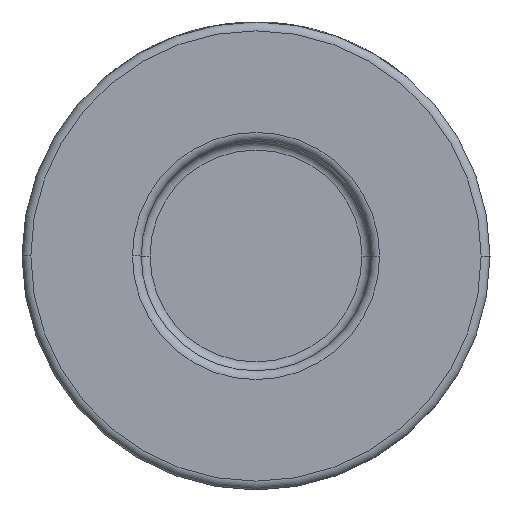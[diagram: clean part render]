
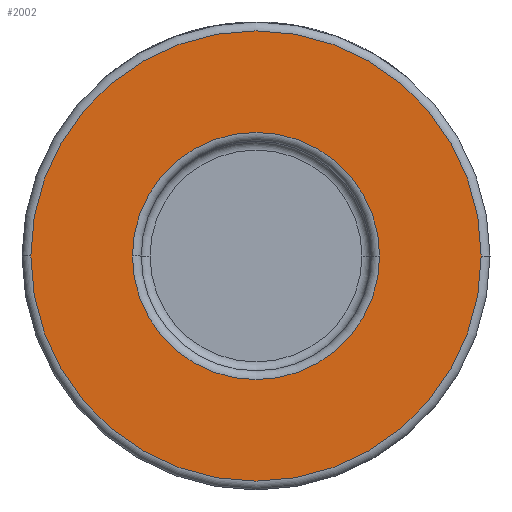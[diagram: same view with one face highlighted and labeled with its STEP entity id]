
A CAD part, front view. The second image highlights one B-rep face of the part: STEP entity #2002.
In plain terms, the highlighted planar face has unit normal (0, -1, 0).
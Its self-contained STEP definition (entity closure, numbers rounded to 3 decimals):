
#249 = AXIS2_PLACEMENT_3D ( 'NONE', #4017, #3641, #3024 ) ;
#378 = EDGE_CURVE ( 'NONE', #748, #4038, #4504, .T. ) ;
#476 = ORIENTED_EDGE ( 'NONE', *, *, #2776, .T. ) ;
#625 = DIRECTION ( 'NONE',  ( 1., 0., 0. ) ) ;
#641 = AXIS2_PLACEMENT_3D ( 'NONE', #1194, #845, #2275 ) ;
#748 = VERTEX_POINT ( 'NONE', #3602 ) ;
#818 = CARTESIAN_POINT ( 'NONE',  ( -14., -19., 0. ) ) ;
#826 = ORIENTED_EDGE ( 'NONE', *, *, #3834, .T. ) ;
#845 = DIRECTION ( 'NONE',  ( 0., -1., 0. ) ) ;
#894 = FACE_OUTER_BOUND ( 'NONE', #1075, .T. ) ;
#1075 = EDGE_LOOP ( 'NONE', ( #476, #3417 ) ) ;
#1161 = AXIS2_PLACEMENT_3D ( 'NONE', #4118, #3771, #625 ) ;
#1194 = CARTESIAN_POINT ( 'NONE',  ( 26.5, -19., 0. ) ) ;
#1236 = AXIS2_PLACEMENT_3D ( 'NONE', #1345, #3100, #3769 ) ;
#1239 = CARTESIAN_POINT ( 'NONE',  ( 25.5, -19., 0. ) ) ;
#1246 = DIRECTION ( 'NONE',  ( 1., 0., 0. ) ) ;
#1345 = CARTESIAN_POINT ( 'NONE',  ( 0., -19., 0. ) ) ;
#1674 = CIRCLE ( 'NONE', #2842, 14. ) ;
#1886 = CIRCLE ( 'NONE', #1236, 14. ) ;
#2002 = ADVANCED_FACE ( 'NONE', ( #2931, #894 ), #4330, .T. ) ;
#2099 = ORIENTED_EDGE ( 'NONE', *, *, #3559, .T. ) ;
#2275 = DIRECTION ( 'NONE',  ( 1., 0., 0. ) ) ;
#2391 = DIRECTION ( 'NONE',  ( 0., 1., 0. ) ) ;
#2776 = EDGE_CURVE ( 'NONE', #4038, #748, #3944, .T. ) ;
#2842 = AXIS2_PLACEMENT_3D ( 'NONE', #4087, #2391, #1246 ) ;
#2931 = FACE_BOUND ( 'NONE', #3011, .T. ) ;
#3011 = EDGE_LOOP ( 'NONE', ( #826, #2099 ) ) ;
#3024 = DIRECTION ( 'NONE',  ( 1., 0., 0. ) ) ;
#3095 = VERTEX_POINT ( 'NONE', #3605 ) ;
#3100 = DIRECTION ( 'NONE',  ( 0., 1., 0. ) ) ;
#3417 = ORIENTED_EDGE ( 'NONE', *, *, #378, .T. ) ;
#3559 = EDGE_CURVE ( 'NONE', #4380, #3095, #1886, .T. ) ;
#3602 = CARTESIAN_POINT ( 'NONE',  ( -25.5, -19., 0. ) ) ;
#3605 = CARTESIAN_POINT ( 'NONE',  ( 14., -19., 0. ) ) ;
#3641 = DIRECTION ( 'NONE',  ( 0., -1., 0. ) ) ;
#3769 = DIRECTION ( 'NONE',  ( 1., 0., 0. ) ) ;
#3771 = DIRECTION ( 'NONE',  ( 0., -1., 0. ) ) ;
#3834 = EDGE_CURVE ( 'NONE', #3095, #4380, #1674, .T. ) ;
#3944 = CIRCLE ( 'NONE', #1161, 25.5 ) ;
#4017 = CARTESIAN_POINT ( 'NONE',  ( 0., -19., 0. ) ) ;
#4038 = VERTEX_POINT ( 'NONE', #1239 ) ;
#4087 = CARTESIAN_POINT ( 'NONE',  ( 0., -19., 0. ) ) ;
#4118 = CARTESIAN_POINT ( 'NONE',  ( 0., -19., 0. ) ) ;
#4330 = PLANE ( 'NONE',  #641 ) ;
#4380 = VERTEX_POINT ( 'NONE', #818 ) ;
#4504 = CIRCLE ( 'NONE', #249, 25.5 ) ;
